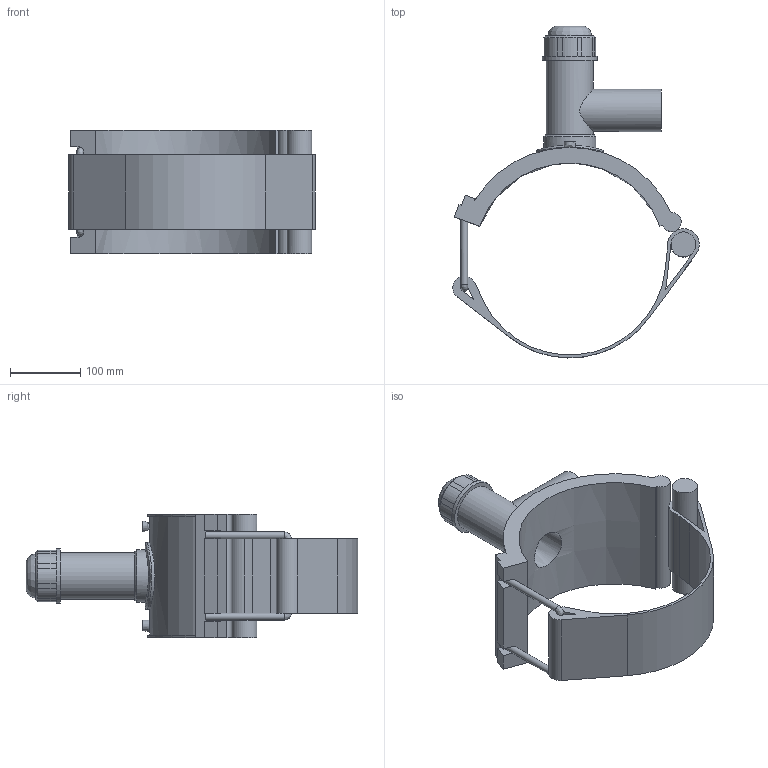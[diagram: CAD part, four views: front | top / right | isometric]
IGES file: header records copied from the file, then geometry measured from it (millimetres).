
Global section: file name: 5913BB03100020.ipt; native system: Autodesk Inventor 2019; preprocessor: unknown; author: KIM; date: 20210830.101044; units: millimetre
Bounding box: 350.33 x 471.58 x 176.02 mm (x, y, z)
Volume: 2400561 mm3; surface area: 424471.3 mm2
Topology: 2 solids, 2 shells, 124 faces, 314 edges, 195 vertices
Faces by surface type: plane 69, cylinder 29, revolution 12, cone 11, bspline 3
Full cylindrical faces by diameter (mm): 4 x2, 9.817 x2, 35.451 x1, 60.1 x1, 62.612 x1, 66.525 x1, 74.352 x1, 78.265 x1, 95.445 x1
